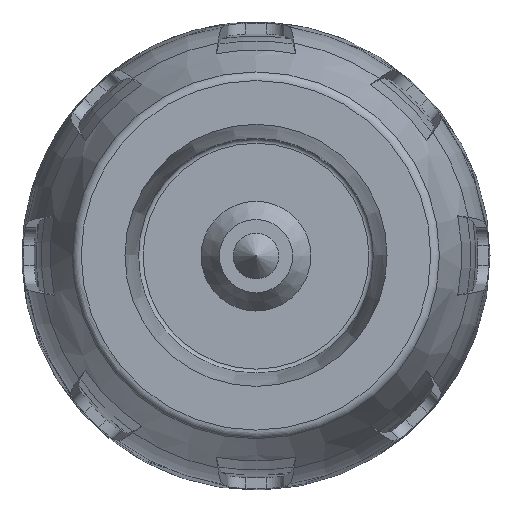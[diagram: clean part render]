
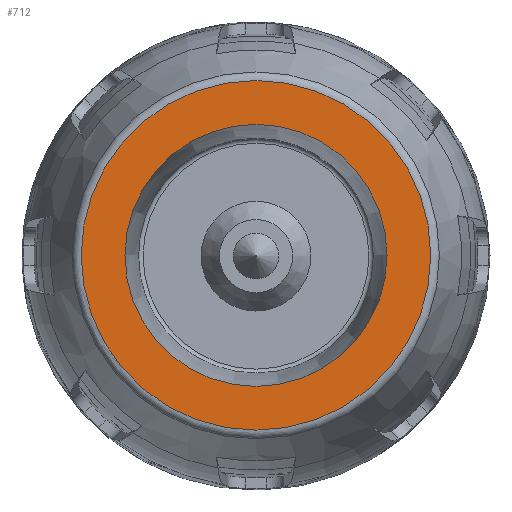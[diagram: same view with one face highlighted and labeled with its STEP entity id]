
A CAD part, top view. The second image highlights one B-rep face of the part: STEP entity #712.
In plain terms, the highlighted planar face has unit normal (0, 0, 1).
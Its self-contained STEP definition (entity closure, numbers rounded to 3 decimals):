
#712 = ADVANCED_FACE( '', ( #1498, #1499 ), #1500, .F. );
#1498 = FACE_BOUND( '', #3073, .T. );
#1499 = FACE_OUTER_BOUND( '', #3074, .T. );
#1500 = PLANE( '', #3075 );
#3073 = EDGE_LOOP( '', ( #6070 ) );
#3074 = EDGE_LOOP( '', ( #6071 ) );
#3075 = AXIS2_PLACEMENT_3D( '', #6072, #6073, #6074 );
#6070 = ORIENTED_EDGE( '', *, *, #7360, .F. );
#6071 = ORIENTED_EDGE( '', *, *, #7361, .F. );
#6072 = CARTESIAN_POINT( '', ( -19.827, 0., 16.53 ) );
#6073 = DIRECTION( '', ( 0., 0., -1. ) );
#6074 = DIRECTION( '', ( -1., 0., 0. ) );
#7360 = EDGE_CURVE( '', #8731, #8731, #8732, .T. );
#7361 = EDGE_CURVE( '', #8733, #8733, #8734, .F. );
#8731 = VERTEX_POINT( '', #11902 );
#8732 = CIRCLE( '', #11903, 14.331 );
#8733 = VERTEX_POINT( '', #11904 );
#8734 = CIRCLE( '', #11905, 19.114 );
#11902 = CARTESIAN_POINT( '', ( -14.331, 0., 16.53 ) );
#11903 = AXIS2_PLACEMENT_3D( '', #13001, #13002, #13003 );
#11904 = CARTESIAN_POINT( '', ( -19.114, 0., 16.53 ) );
#11905 = AXIS2_PLACEMENT_3D( '', #13004, #13005, #13006 );
#13001 = CARTESIAN_POINT( '', ( 0., 0., 16.53 ) );
#13002 = DIRECTION( '', ( 0., 0., 1. ) );
#13003 = DIRECTION( '', ( -1., 0., 0. ) );
#13004 = CARTESIAN_POINT( '', ( 0., 0., 16.53 ) );
#13005 = DIRECTION( '', ( 0., 0., 1. ) );
#13006 = DIRECTION( '', ( -1., 0., 0. ) );
